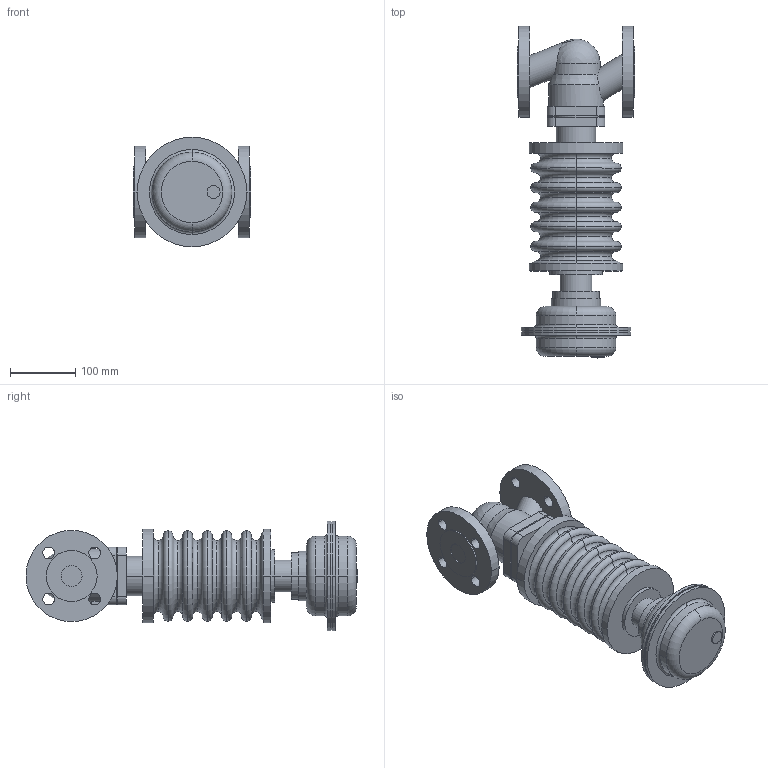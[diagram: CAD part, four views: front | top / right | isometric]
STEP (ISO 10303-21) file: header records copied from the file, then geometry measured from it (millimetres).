
FILE_DESCRIPTION( ( '' ), '1' );
FILE_NAME( 'F:/DE-SHS/TB/OR/04-Sonstiges/daten/files_3d/PREDU/PREDU-PN25/c000005601.stp', '2015-03-05T08:34:01', ( '' ), ( '' ), ' ', ' ', ' ' );
FILE_SCHEMA( ( 'CONFIG_CONTROL_DESIGN' ) );
Length unit declared in the file: millimetre
Products named in the file (2): 1; 2
Bounding box: 180 x 509 x 168 mm (x, y, z)
Volume: 5023334.6 mm3; surface area: 378952.9 mm2
Topology: 2 solids, 2 shells, 179 faces, 426 edges, 274 vertices
Faces by surface type: cylinder 72, torus 54, plane 50, cone 2, sphere 1
Entity records: 5803 total; most frequent: CARTESIAN_POINT 1294, DIRECTION 1056, ORIENTED_EDGE 848, AXIS2_PLACEMENT_3D 463, EDGE_CURVE 424, CIRCLE 276, VERTEX_POINT 274, EDGE_LOOP 220
